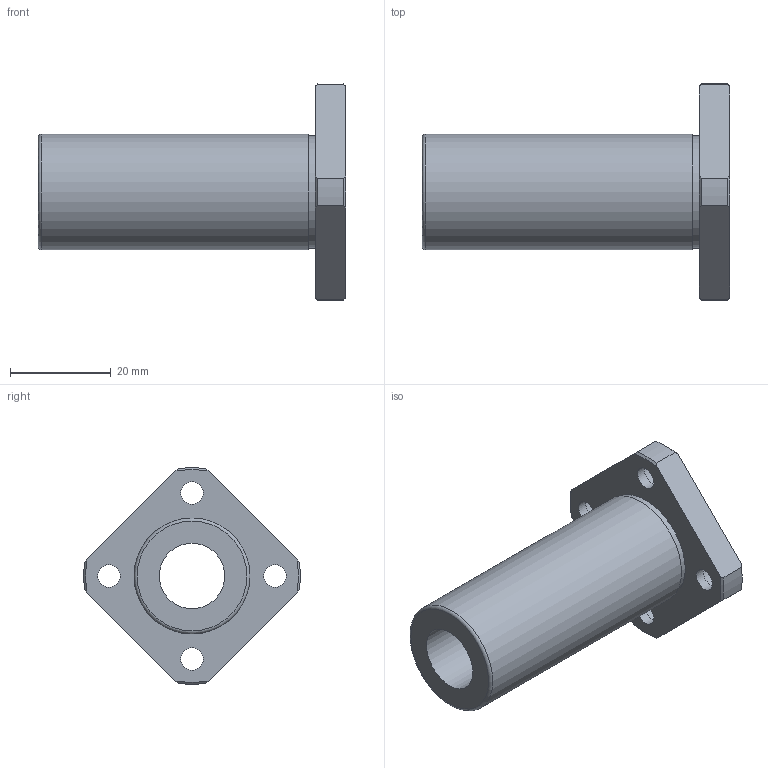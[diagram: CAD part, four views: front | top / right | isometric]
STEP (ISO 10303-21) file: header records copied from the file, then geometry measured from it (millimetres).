
FILE_DESCRIPTION(('STEP AP203'),'1');
FILE_NAME('//192.168.1.1/share/s-4 技術開発/s-4-4_CAD/s-4-4-3_見直し済み/002 修正済み/NFES-VL/NFES-VL_TOP/NFES-13VLUU.step','2022-03-08T00:54:59',(' '),(' '),'Spatial InterOp 3D',' ',' ');
FILE_SCHEMA(('CONFIG_CONTROL_DESIGN'));
Length unit declared in the file: millimetre
Products named in the file (1): 1
Bounding box: 61 x 42.96 x 42.96 mm (x, y, z)
Volume: 20639.2 mm3; surface area: 9603.3 mm2
Topology: 1 solids, 1 shells, 36 faces, 89 edges, 61 vertices
Faces by surface type: cylinder 15, plane 12, cone 8, torus 1
Full cylindrical faces by diameter (mm): 4.5 x4, 7.5 x4, 13 x1, 22.3 x1, 23 x1
Entity records: 1058 total; most frequent: CARTESIAN_POINT 211, DIRECTION 168, ORIENTED_EDGE 142, AXIS2_PLACEMENT_3D 76, EDGE_CURVE 71, EDGE_LOOP 64, VERTEX_POINT 55, FACE_OUTER_BOUND 48
